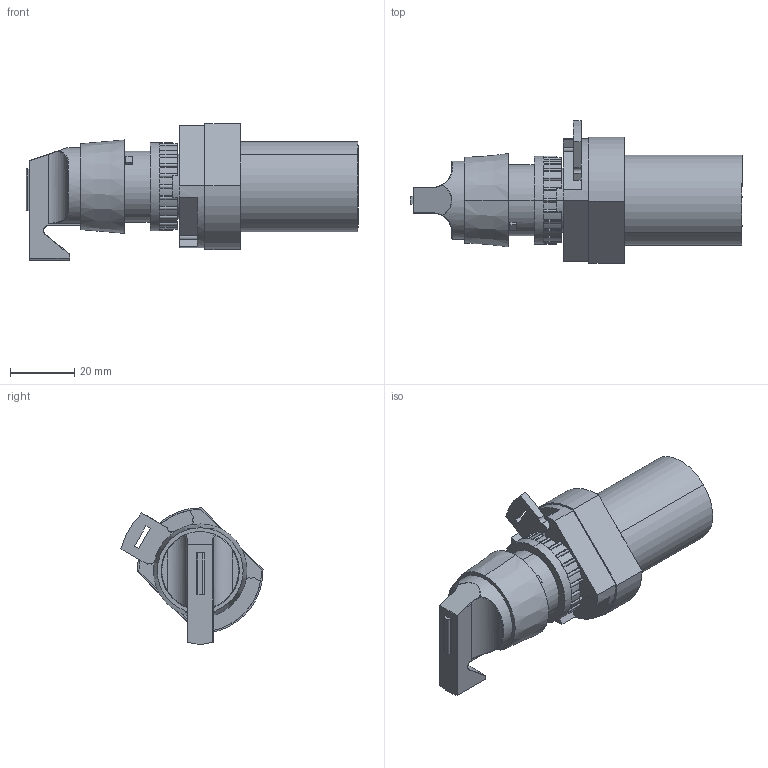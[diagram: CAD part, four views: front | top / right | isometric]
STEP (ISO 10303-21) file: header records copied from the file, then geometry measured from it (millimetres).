
FILE_DESCRIPTION (( 'STEP AP203' ), '1' );
FILE_NAME ('18-T-23-013_T-30-510-Airtec.step', '2006-10-31T13:15:29', ( 'Gustaf Hederström' ), ( 'Cevican AB' ), 'SwSTEP 2.0', 'SolidWorks 2002308', '' );
FILE_SCHEMA (( 'CONFIG_CONTROL_DESIGN' ));
Length unit declared in the file: millimetre
Products named in the file (3): 18-T-23-013_T-30-510-Airtec; 18-T-23-013-Airtec; T-30-510-Airtec
Assembly tree (2 placements, depth 2):
  18-T-23-013_T-30-510-Airtec
    T-30-510-Airtec
    18-T-23-013-Airtec
Bounding box: 103 x 44.09 x 42.3 mm (x, y, z)
Volume: 58215.1 mm3; surface area: 15505.5 mm2
Topology: 2 solids, 2 shells, 438 faces, 1187 edges, 756 vertices
Faces by surface type: plane 221, cylinder 182, bspline 21, cone 14
Entity records: 15457 total; most frequent: CARTESIAN_POINT 3994, DIRECTION 2400, ORIENTED_EDGE 2338, EDGE_CURVE 1169, AXIS2_PLACEMENT_3D 853, VERTEX_POINT 756, LINE 694, VECTOR 694
